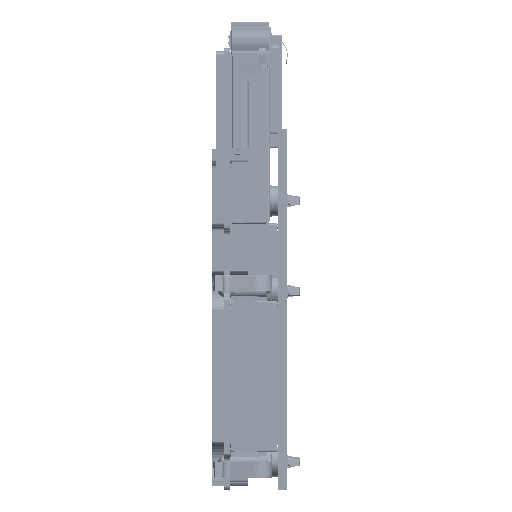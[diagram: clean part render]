
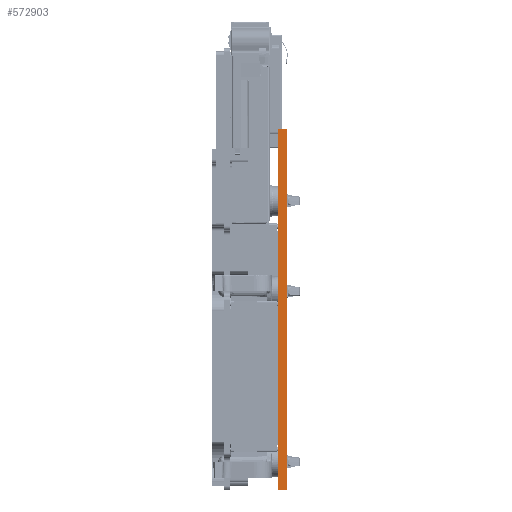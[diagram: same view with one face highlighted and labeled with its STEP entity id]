
A CAD part, left-side view. The second image highlights one B-rep face of the part: STEP entity #572903.
In plain terms, the highlighted planar face has unit normal (-1, 0, 0) as drawn and (1, 0, 0) by its records, which use the part's own axes.
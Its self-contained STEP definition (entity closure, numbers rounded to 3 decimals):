
#572146=DIRECTION('',(0.,-1.,0.));
#572147=VECTOR('',#572146,2.16);
#572148=CARTESIAN_POINT('',(127.87,0.,-418.));
#572149=LINE('',#572148,#572147);
#572153=DIRECTION('',(0.,0.,1.));
#572154=VECTOR('',#572153,90.);
#572155=CARTESIAN_POINT('',(127.87,0.,-508.));
#572156=LINE('',#572155,#572154);
#572160=DIRECTION('',(0.,1.,0.));
#572161=VECTOR('',#572160,2.16);
#572162=CARTESIAN_POINT('',(127.87,-2.16,-508.));
#572163=LINE('',#572162,#572161);
#572167=DIRECTION('',(0.,0.,-1.));
#572168=VECTOR('',#572167,90.);
#572169=CARTESIAN_POINT('',(127.87,-2.16,-418.));
#572170=LINE('',#572169,#572168);
#572291=CARTESIAN_POINT('',(127.87,-2.16,-418.));
#572293=VERTEX_POINT('',#572291);
#572328=CARTESIAN_POINT('',(127.87,-2.16,-508.));
#572329=VERTEX_POINT('',#572328);
#572334=CARTESIAN_POINT('',(127.87,0.,-508.));
#572335=CARTESIAN_POINT('',(127.87,0.,-418.));
#572336=VERTEX_POINT('',#572334);
#572337=VERTEX_POINT('',#572335);
#572891=CARTESIAN_POINT('',(127.87,0.,-508.));
#572892=DIRECTION('',(-1.,0.,0.));
#572893=DIRECTION('',(0.,0.,1.));
#572894=AXIS2_PLACEMENT_3D('',#572891,#572892,#572893);
#572895=PLANE('',#572894);
#572896=ORIENTED_EDGE('',*,*,#572886,.F.);
#572897=ORIENTED_EDGE('',*,*,#572534,.F.);
#572899=ORIENTED_EDGE('',*,*,#572898,.F.);
#572900=ORIENTED_EDGE('',*,*,#572439,.F.);
#572901=EDGE_LOOP('',(#572896,#572897,#572899,#572900));
#572902=FACE_OUTER_BOUND('',#572901,.F.);
#572439=EDGE_CURVE('',#572293,#572329,#572170,.T.);
#572534=EDGE_CURVE('',#572336,#572337,#572156,.T.);
#572886=EDGE_CURVE('',#572337,#572293,#572149,.T.);
#572898=EDGE_CURVE('',#572329,#572336,#572163,.T.);
#572903=ADVANCED_FACE('',(#572902),#572895,.F.);
